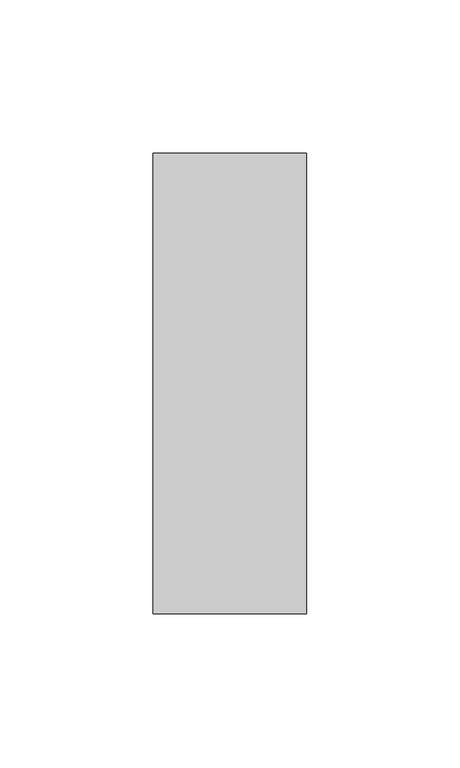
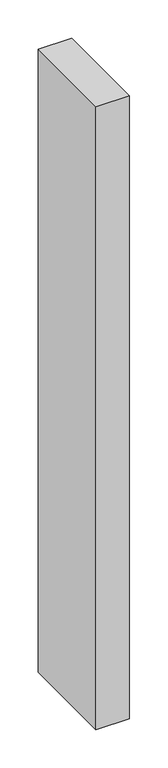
"""IFC4 building model written with IfcOpenShell, lengths in millimetres: member geometry, Прямоугольный импост : 50 x 150 мм."""

import ifcopenshell
import ifcopenshell.guid

model = None  # the IFC model being written
_history = None  # IfcOwnerHistory: only IFC2X3 demands one
_inside = {}  # id of a spatial element -> (the spatial element, [elements in it])
_under = {}  # id of a project, library or spatial element -> (it, [spatial elements below it])
_declared = {}  # id of a project -> (the project, [libraries it declares])
_typed = {}  # id of a type object -> (the type object, [elements of that type])
_made_of = {}  # id of a material, layer set ... -> (it, [elements and type objects made of it])


def new_model(schema):
    """Start an empty IFC model of exactly this schema.

    Asked for "IFC4X3", IfcOpenShell would pick the latest addendum, in which some entities
    have other attributes; the version numbers below select the first issue.
    IFC2X3 requires an IfcOwnerHistory on every rooted entity: one is made here for all.
    """
    global model, _history
    if schema == "IFC4X3":
        model = ifcopenshell.file(schema_version=(4, 3, 0, 0))
    else:
        model = ifcopenshell.file(schema=schema)
    _inside.clear()
    _under.clear()
    _declared.clear()
    _typed.clear()
    _made_of.clear()
    _history = None
    if model.schema == "IFC2X3":
        org = make("IfcOrganization", Name="unknown")
        user = make(
            "IfcPersonAndOrganization",
            ThePerson=make("IfcPerson", FamilyName="unknown"),
            TheOrganization=org,
        )
        app = make(
            "IfcApplication",
            ApplicationDeveloper=org,
            Version="unknown",
            ApplicationFullName="unknown",
            ApplicationIdentifier="unknown",
        )
        _history = make(
            "IfcOwnerHistory",
            OwningUser=user,
            OwningApplication=app,
            ChangeAction="ADDED",
            CreationDate=0,
        )
    return model


def make(cls, **values):
    """One entity of the class cls with the attributes given. An attribute that is None is left unset."""
    return model.create_entity(
        cls, **{name: value for name, value in values.items() if value is not None}
    )


def rooted(cls, **values):
    """An entity with a GlobalId (a new one), such as an element, a storey or a relation."""
    return make(cls, GlobalId=ifcopenshell.guid.new(), OwnerHistory=_history, **values)


def si_unit(unit_type, name, prefix=None):
    """IfcSIUnit, for example si_unit("LENGTHUNIT", "METRE", prefix="MILLI")."""
    return make("IfcSIUnit", UnitType=unit_type, Prefix=prefix, Name=name)


def assignment(units):
    """IfcUnitAssignment: the units of a project."""
    return None if units is None else make("IfcUnitAssignment", Units=units)


def point(xyz):
    """IfcCartesianPoint."""
    return None if xyz is None else make("IfcCartesianPoint", Coordinates=xyz)


def direction(xyz):
    """IfcDirection."""
    return None if xyz is None else make("IfcDirection", DirectionRatios=xyz)


def frame(location, z_axis=None, x_axis=None):
    """IfcAxis2Placement3D, a coordinate frame: its origin and axes. An axis left out is left unset."""
    return make(
        "IfcAxis2Placement3D",
        Location=point(location),
        Axis=direction(z_axis),
        RefDirection=direction(x_axis),
    )


def origin():
    """The frame at (0, 0, 0) with its axes left unset."""
    return frame((0.0, 0.0, 0.0))


def place(relative_to, where):
    """IfcLocalPlacement: puts the frame where relative to a parent placement (None: the world)."""
    return make(
        "IfcLocalPlacement", PlacementRelTo=relative_to, RelativePlacement=where
    )


def context(
    kind, dimensions, precision=None, world=None, true_north=None, identifier=None
):
    """IfcGeometricRepresentationContext, for example the 3D "Model" context."""
    return make(
        "IfcGeometricRepresentationContext",
        ContextIdentifier=identifier,
        ContextType=kind,
        CoordinateSpaceDimension=dimensions,
        Precision=precision,
        WorldCoordinateSystem=world,
        TrueNorth=true_north,
    )


def project(units=None, contexts=None):
    """IfcProject with its units and contexts."""
    return rooted(
        "IfcProject",
        Name="project",
        RepresentationContexts=contexts,
        UnitsInContext=assignment(units),
    )


def spatial(cls, under=None, at=None, **own):
    """A site, building, storey or space (cls), placed at a placement, below another one or the project."""
    s = rooted(cls, ObjectPlacement=at, **own)
    if under is not None:
        _under.setdefault(under.id(), (under, []))[1].append(s)
    return s


def polyline(points):
    """IfcPolyline through the points."""
    return make("IfcPolyline", Points=[point(p) for p in points])


def outline(outer, holes=None, kind="AREA"):
    """IfcArbitraryClosedProfileDef: a profile drawn as a closed curve; with holes, ...WithVoids."""
    if holes is None:
        return make("IfcArbitraryClosedProfileDef", ProfileType=kind, OuterCurve=outer)
    return make(
        "IfcArbitraryProfileDefWithVoids",
        ProfileType=kind,
        OuterCurve=outer,
        InnerCurves=holes,
    )


def extrude(swept, where, along, depth):
    """IfcExtrudedAreaSolid: the profile swept, set in the frame where, extruded along a direction by depth."""
    return make(
        "IfcExtrudedAreaSolid",
        SweptArea=swept,
        Position=where,
        ExtrudedDirection=direction(along),
        Depth=depth,
    )


def shape(context_of_items, identifier, shape_type, items):
    """IfcShapeRepresentation: the items that make up one representation, for example the "Body"."""
    return make(
        "IfcShapeRepresentation",
        ContextOfItems=context_of_items,
        RepresentationIdentifier=identifier,
        RepresentationType=shape_type,
        Items=items,
    )


def source(mapping_origin, context_of_items, identifier, shape_type, items):
    """IfcRepresentationMap: a shape defined once, which mapped items show again and again."""
    return make(
        "IfcRepresentationMap",
        MappingOrigin=mapping_origin,
        MappedRepresentation=shape(context_of_items, identifier, shape_type, items),
    )


def transform(
    local_origin,
    x_axis=None,
    y_axis=None,
    z_axis=None,
    scale=None,
    scale2=None,
    scale3=None,
    uniform=True,
):
    """IfcCartesianTransformationOperator3D, or its non-uniform kind. x_axis, y_axis, z_axis: its Axis1, 2, 3."""
    if uniform:
        return make(
            "IfcCartesianTransformationOperator3D",
            Axis1=direction(x_axis),
            Axis2=direction(y_axis),
            LocalOrigin=point(local_origin),
            Scale=scale,
            Axis3=direction(z_axis),
        )
    return make(
        "IfcCartesianTransformationOperator3DnonUniform",
        Axis1=direction(x_axis),
        Axis2=direction(y_axis),
        LocalOrigin=point(local_origin),
        Scale=scale,
        Axis3=direction(z_axis),
        Scale2=scale2,
        Scale3=scale3,
    )


def mapped(mapping_source, mapping_target):
    """IfcMappedItem: shows the shape of a source again, moved by a transform."""
    return make(
        "IfcMappedItem", MappingSource=mapping_source, MappingTarget=mapping_target
    )


def made_of(thing, what):
    """Note that an element or type object is made of a material, layer set ...; save() writes the relation."""
    if what is not None:
        _made_of.setdefault(what.id(), (what, []))[1].append(thing)
    return thing


def element(
    cls,
    number,
    at=None,
    inside=None,
    cuts=None,
    type_object=None,
    material=None,
    context=None,
    identifier="Body",
    shape_type=None,
    held_by="IfcProductDefinitionShape",
    body=None,
    shapes=None,
    **own,
):
    """One element of the class cls, such as IfcWall. Its Tag is "e" and its number.

    at: its placement. inside: the storey or other place that contains it. cuts: it is an
    opening in that element (IfcRelVoidsElement). A single representation is given by context,
    identifier, shape_type and body (its items); several are given by shapes. held_by: the class
    of the entity that holds the representations. save() writes the other relations.
    """
    e = rooted(cls, Tag="e%d" % number, ObjectPlacement=at, **own)
    if body is not None:
        shapes = [shape(context, identifier, shape_type, body)]
    if shapes is not None:
        e.Representation = make(held_by, Representations=shapes)
    if inside is not None:
        _inside.setdefault(inside.id(), (inside, []))[1].append(e)
    if cuts is not None:
        rooted(
            "IfcRelVoidsElement", RelatingBuildingElement=cuts, RelatedOpeningElement=e
        )
    if type_object is not None:
        _typed.setdefault(type_object.id(), (type_object, []))[1].append(e)
    return made_of(e, material)


def aggregate(whole, parts):
    """IfcRelAggregates: a whole, such as a stair, and the parts it consists of."""
    return rooted("IfcRelAggregates", RelatingObject=whole, RelatedObjects=parts)


def save(model, path):
    """Write the relations noted so far, then the file.

    IfcRelAggregates (storeys below a building ...), IfcRelContainedInSpatialStructure (elements
    in a storey), IfcRelDefinesByType, IfcRelAssociatesMaterial and IfcRelDeclares: one each for
    every whole, place, type object, material and project.
    """
    for whole, parts in _under.values():
        aggregate(whole, parts)
    for where, things in _inside.values():
        rooted(
            "IfcRelContainedInSpatialStructure",
            RelatedElements=things,
            RelatingStructure=where,
        )
    for kind, things in _typed.values():
        rooted("IfcRelDefinesByType", RelatedObjects=things, RelatingType=kind)
    for what, things in _made_of.values():
        rooted("IfcRelAssociatesMaterial", RelatedObjects=things, RelatingMaterial=what)
    for by, libraries in _declared.values():
        rooted("IfcRelDeclares", RelatingContext=by, RelatedDefinitions=libraries)
    model.write(path)


def member_2a1058ef(model_context):
    return source(origin(), model_context, "Body", "SweptSolid", [
        extrude(outline(polyline([(25.0, 75.0), (25.0, -75.0), (-25.0, -75.0), (-25.0, 75.0), (25.0, 75.0)])), frame((0.0, 0.0, -990.6281968), z_axis=(0.0, 0.0, 1.0), x_axis=(1.0, 0.0, 0.0)), (0.0, 0.0, 1.0), 990.6281968),
    ])


if __name__ == "__main__":
    model = new_model("IFC4")
    model_context = context("Model", 3, world=origin())
    ifc_project = project(units=[si_unit("LENGTHUNIT", "METRE", prefix="MILLI")], contexts=[model_context])
    site = spatial("IfcSite", under=ifc_project)
    building = spatial("IfcBuilding", under=site)
    placement = place(None, origin())
    member_shape = member_2a1058ef(model_context)
    element("IfcMember", 1, ObjectType="Прямоугольный импост : 50 x 150 мм", at=placement, inside=building, context=model_context, shape_type="MappedRepresentation", body=[
        mapped(member_shape, transform((0.0, 0.0, 0.0), x_axis=(1.0, 0.0, 0.0), y_axis=(0.0, 1.0, 0.0), z_axis=(0.0, 0.0, 1.0))),
    ])
    save(model, "model.ifc")
